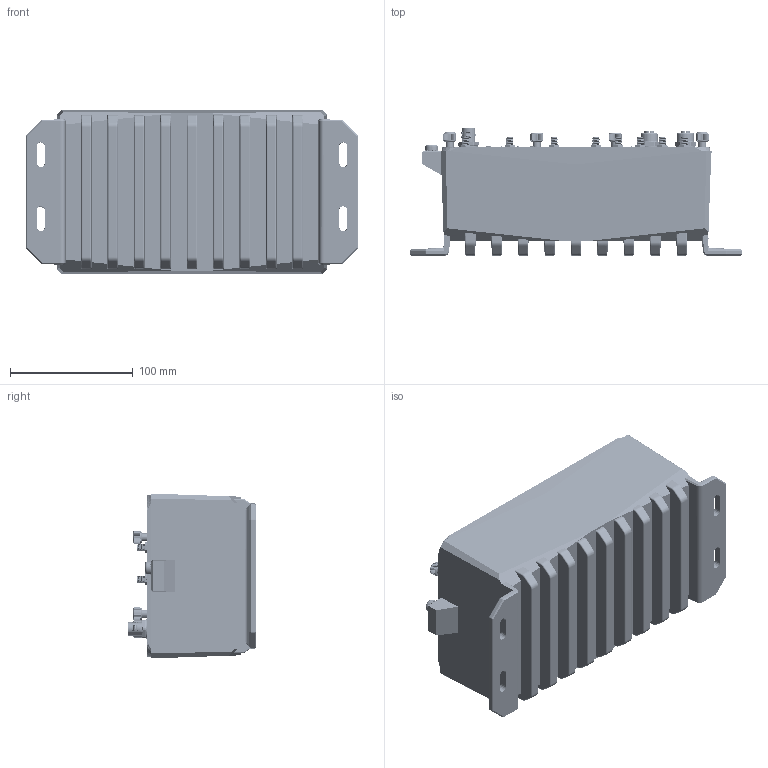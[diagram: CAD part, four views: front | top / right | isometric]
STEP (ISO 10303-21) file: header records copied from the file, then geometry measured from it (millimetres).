
FILE_DESCRIPTION((''),'2;1');
FILE_NAME('ASM0004_ASM','2017-06-23T',('VicWM_Chen'),(''),'PRO/ENGINEER BY PARAMETRIC TECHNOLOGY CORPORATION, 2013230','PRO/ENGINEER BY PARAMETRIC TECHNOLOGY CORPORATION, 2013230','');
FILE_SCHEMA(('CONFIG_CONTROL_DESIGN'));
Products named in the file (207): MSBR-205; MSBR-204; MSBR-203; MSBR-202; MSBR-201; MSBR-200; MSBR-199; MSBR-198; MSBR-197; MSBR-196; MSBR-195; MSBR-194; MSBR-193; MSBR-192; MSBR-191; MSBR-190; MSBR-189; MSBR-188; MSBR-187; MSBR-186; MSBR-185; MSBR-184; MSBR-183; MSBR-182; MSBR-181; MSBR-180; MSBR-179; MSBR-178; MSBR-177; MSBR-176; MSBR-175; MSBR-174; MSBR-173; MSBR-172; MSBR-171; MSBR-170; MSBR-169; MSBR-168; MSBR-167; MSBR-166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
Assembly tree (206 placements, depth 2):
  ASM0004_ASM
    MSBR-205
    MSBR-204
    MSBR-203
    MSBR-202
    MSBR-201
    MSBR-200
    MSBR-199
    MSBR-198
    MSBR-197
    MSBR-196
    MSBR-195
    MSBR-194
    MSBR-193
    MSBR-192
    MSBR-191
    MSBR-190
    MSBR-189
    MSBR-188
    MSBR-187
    MSBR-186
    MSBR-185
    MSBR-184
    MSBR-183
    MSBR-182
    MSBR-181
    MSBR-180
    MSBR-179
    MSBR-178
    MSBR-177
    MSBR-176
    MSBR-175
    MSBR-174
    MSBR-173
    MSBR-172
    MSBR-171
    MSBR-170
    MSBR-169
    MSBR-168
    MSBR-167
    MSBR-166
    MSBR-165
    MSBR-164
    MSBR-163
    MSBR-162
    MSBR-161
    MSBR-160
    MSBR-159
    MSBR-158
    MSBR-157
    MSBR-156
    MSBR-155
    MSBR-154
    MSBR-153
    MSBR-152
    MSBR-151
    MSBR-150
    MSBR-149
    MSBR-148
    MSBR-147
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Bounding box: 270 x 103.9 x 134.1 mm (x, y, z)
Volume: 807213.8 mm3; surface area: 613359.5 mm2
Topology: 205 solids, 221 shells, 27371 faces, 74649 edges, 48618 vertices
Faces by surface type: plane 16761, cylinder 6893, bspline 1608, torus 1043, cone 632, sphere 242, extrusion 158, revolution 34
Entity records: 1303525 total; most frequent: CARTESIAN_POINT 435100, ORIENTED_EDGE 148926, DIRECTION 130394, EDGE_CURVE 74495, VECTOR 49026, LINE 48868, VERTEX_POINT 48609, AXIS2_PLACEMENT_3D 40667
